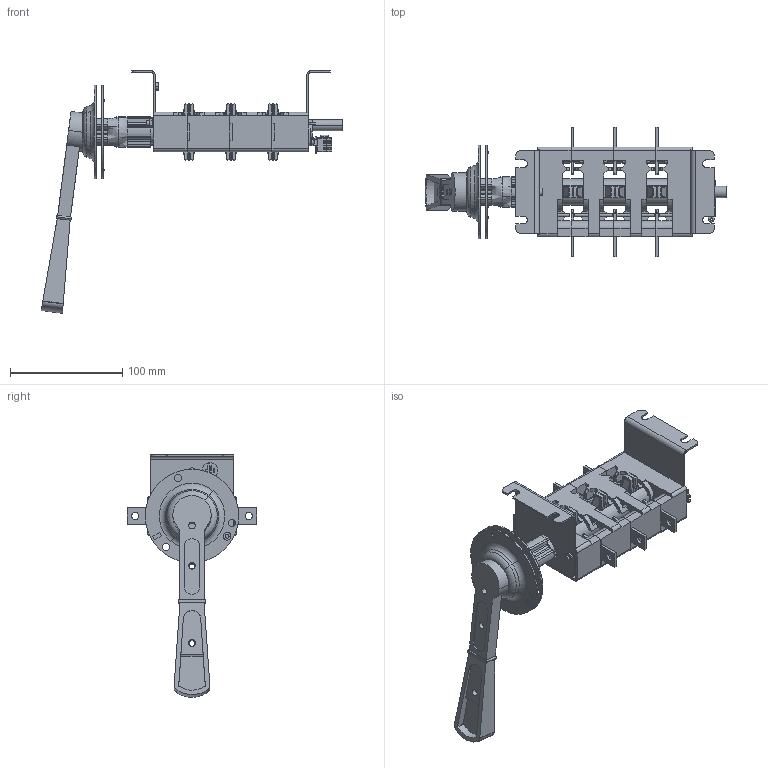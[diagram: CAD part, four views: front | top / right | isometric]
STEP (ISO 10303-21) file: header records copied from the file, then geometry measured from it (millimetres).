
FILE_DESCRIPTION (( 'STEP AP214' ), '1' );
FILE_NAME ('ﾂﾐ32-31ﾔ ﾃﾆﾈﾊ.642423.007-02 (ﾂ30251-100ﾀ).STEP', '2022-07-14T06:46:49', ( '' ), ( '' ), 'SwSTEP 2.0', 'SolidWorks 2018', '' );
FILE_SCHEMA (( 'AUTOMOTIVE_DESIGN' ));
Length unit declared in the file: millimetre
Products named in the file (32): Øïèëüêà ñïåöèàëüíàÿ ÃÆÈÊ.754292.014_-01(à¥§ì¡ ); Ïëàñòèíà óïðàâëåíèÿ; Ñêîáà ÃÆÈÊ.745326.032_“áâ ­®¢«¥­­®¥ á®áâ; 枔膴闀歑樏錌欑蠈錪 蟠61; Âèíò Â.Ì4-6g_-00 (Œ4å8); Áîêîâèíà ëåâàÿ ÃÆÈÊ.735224.023_-01 (à¥§ì¡ ); 暑痫篑 镳噔 闷仁.735384.079; Ðóêîÿòêà ÃÆÈÊ.303658.010; ﾂ琿 ﾃﾆﾈﾊ.303731.003; 想囫蜩磬_-01 (帷獱); ﾘ琺矜 ﾃﾆﾈﾊ.758491.056; 蓐聆屙蝠桕 闷仁.751621.001; 买箅赅 闷仁.713141.009; ﾂﾐ32-31ﾔ ﾃﾆﾈﾊ.642423.007-02 (ﾂ30251-100ﾀ); ﾏ跖浯 ﾃﾆﾈﾊ.753553.010; ﾊ煇鳫 ﾃﾆﾈﾊ.745357.005; ﾂ鏆鮏 ﾃﾆﾈﾊ.745485.002; ﾘ琺矜 4; Êîðïóñ ëåâûé ÃÆÈÊ.735384.081; ﾎﾁﾎﾋﾎﾗﾊﾀ_ﾍ; Áîêîâèíà ïðàâàÿ ÃÆÈÊ.735224.022; Âàë ÃÆÈÊ.715274.009_ƒ†ˆŠ.715274.009; Êîíòàêò ïîäâèæíûé ÃÆÈÊ.745355.054; Òàáëè÷êà äëÿ ñáîðêè ÷èñòàÿ áîëüøàÿ; ﾘ琺矜 D32; Ïðîêëàäêà ÃÆÈÊ.741233.006_-01(¤«ï ç¥àâ¥¦ ); Ãàéêà Ì4; 噪囗弼 闷仁.712378.001; ﾘ琺矜 D15; Êîðïóñ ñðåäíèé ÃÆÈÊ.735384.080; Òàáëè÷êà äëÿ ñáîðêè ÷èñòàÿ; 澡犟囹铕 闷仁.745484.014
Assembly tree (54 placements, depth 3):
  ﾂﾐ32-31ﾔ ﾃﾆﾈﾊ.642423.007-02 (ﾂ30251-100ﾀ)
    暑痫篑 镳噔 闷仁.735384.079
    Êîðïóñ ëåâûé ÃÆÈÊ.735384.081
    Êîðïóñ ñðåäíèé ÃÆÈÊ.735384.080  x2
    Áîêîâèíà ïðàâàÿ ÃÆÈÊ.735224.022
    Áîêîâèíà ëåâàÿ ÃÆÈÊ.735224.023_-01 (à¥§ì¡ )
    Ïðîêëàäêà ÃÆÈÊ.741233.006_-01(¤«ï ç¥àâ¥¦ )  x2
    蓐聆屙蝠桕 闷仁.751621.001
    ﾊ煇鳫 ﾃﾆﾈﾊ.745357.005
    枔膴闀歑樏錌欑蠈錪 蟠61
    Âèíò Â.Ì4-6g_-00 (Œ4å8)
    ﾘ琺矜 4  x3
    Ãàéêà Ì4  x2
    Øïèëüêà ñïåöèàëüíàÿ ÃÆÈÊ.754292.014_-01(à¥§ì¡ )  x2
    ﾂ鏆鮏 ﾃﾆﾈﾊ.745485.002  x6
    买箅赅 闷仁.713141.009
    噪囗弼 闷仁.712378.001
    Ðóêîÿòêà ÃÆÈÊ.303658.010
      ﾘ琺矜 D32
      ﾘ琺矜 D15
      Ïëàñòèíà óïðàâëåíèÿ
      想囫蜩磬_-01 (帷獱)
      ﾎﾁﾎﾋﾎﾗﾊﾀ_ﾍ
    Òàáëè÷êà äëÿ ñáîðêè ÷èñòàÿ
    Òàáëè÷êà äëÿ ñáîðêè ÷èñòàÿ áîëüøàÿ
    ﾘ琺矜 ﾃﾆﾈﾊ.758491.056
    ﾂ琿 ﾃﾆﾈﾊ.303731.003
      Âàë ÃÆÈÊ.715274.009_ƒ†ˆŠ.715274.009
      Êîíòàêò ïîäâèæíûé ÃÆÈÊ.745355.054  x6
      Ñêîáà ÃÆÈÊ.745326.032_“áâ ­®¢«¥­­®¥ á®áâ  x6
    ﾏ跖浯 ﾃﾆﾈﾊ.753553.010  x2
    澡犟囹铕 闷仁.745484.014  x2
Bounding box: 268.36 x 115.12 x 215.88 mm (x, y, z)
Volume: 298128.9 mm3; surface area: 221885.5 mm2
Topology: 53 solids, 53 shells, 2480 faces, 6579 edges, 4269 vertices
Faces by surface type: plane 1424, cylinder 799, bspline 153, cone 50, torus 46, sphere 8
Entity records: 128262 total; most frequent: CARTESIAN_POINT 81069, ORIENTED_EDGE 9078, DIRECTION 8761, EDGE_CURVE 4539, AXIS2_PLACEMENT_3D 2994, VERTEX_POINT 2975, LINE 2773, VECTOR 2773
